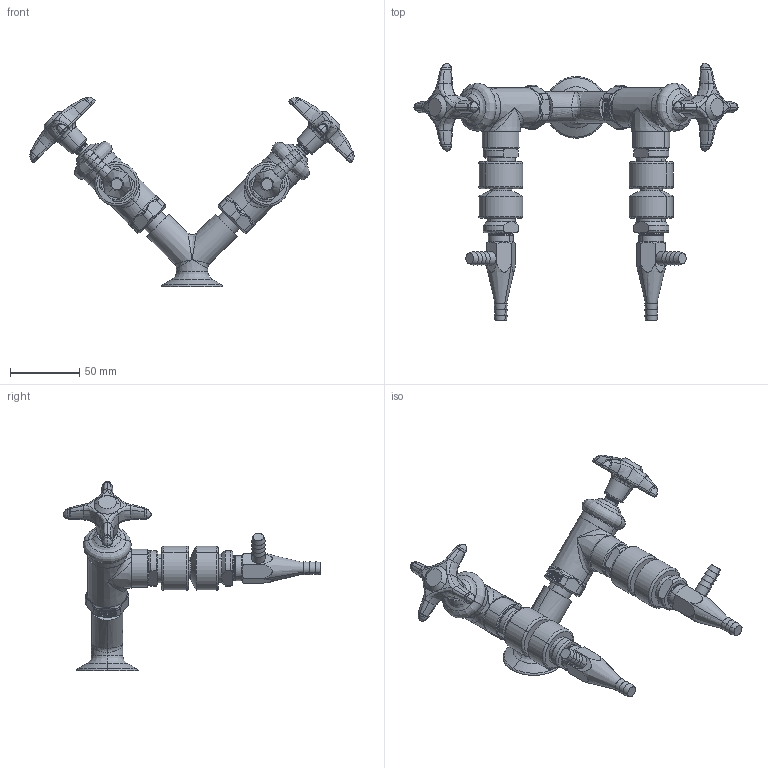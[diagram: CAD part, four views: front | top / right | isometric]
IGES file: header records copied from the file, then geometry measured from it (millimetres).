
Start section:  PTC IGES file: LWV2-C64-60.igs
Global section: file name: LWV2-C64-60.igs; native system: Creo Parametric by PTC Inc.; preprocessor: 2014500; author: usch_engrender; organization: Unknown; date: 20151118.124125; units: inch
Bounding box: 233.61 x 185.63 x 136.58 mm (x, y, z)
Volume: 281433 mm3; surface area: 62025.1 mm2
Topology: 1 solids, 7 shells, 995 faces, 2276 edges, 1339 vertices
Faces by surface type: bspline 553, revolution 442
